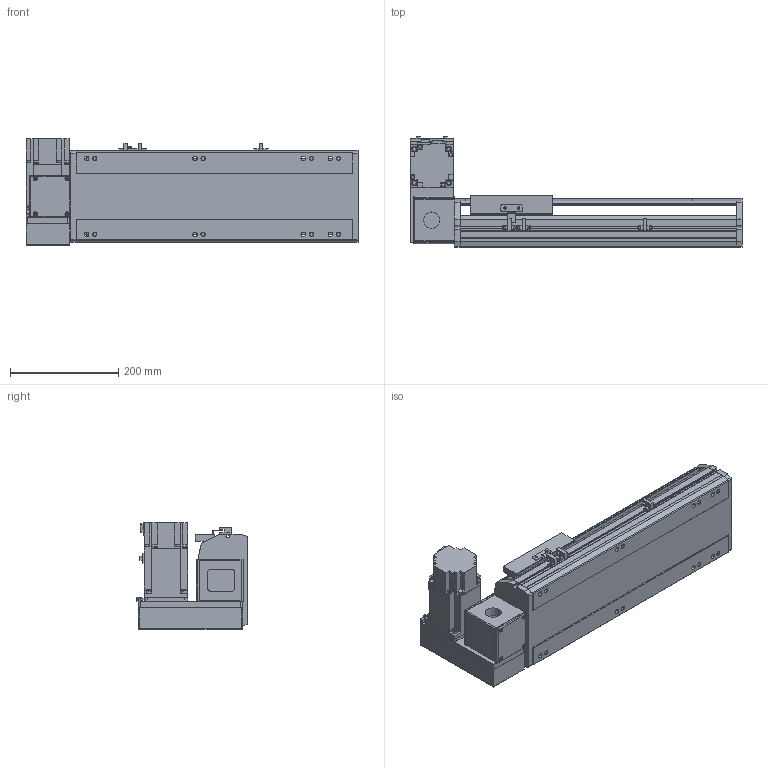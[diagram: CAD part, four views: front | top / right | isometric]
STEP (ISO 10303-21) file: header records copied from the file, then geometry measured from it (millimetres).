
FILE_DESCRIPTION( ( 'STEP AP214' ), '1' );
FILE_NAME( 'x:/temp/worker_4/temp/exporttempdir_2248_383_PNFBa/format_0/PBS170-P40-S250-LU-T75-C1-N(0).stp', '2022-06-07T08:14:00', ( 'License CC BY-ND 4.0' ), ( 'CADENAS' ), ' ', 'PARTsolutions', ' ' );
FILE_SCHEMA( ( 'AUTOMOTIVE_DESIGN { 1 0 10303 214 1 1 1 1 }' ) );
Length unit declared in the file: millimetre
Products named in the file (7): PBS170-P40-S250-LU-T75-C1-N(0); _PBS170-S250()_body; _PBS170T-LU_motors; _T75-p1; _PBS170_sliser; _PBS170_plant; _PBS170_sensor
Assembly tree (8 placements, depth 2):
  PBS170-P40-S250-LU-T75-C1-N(0)
    _PBS170-S250()_body
    _PBS170T-LU_motors
    _T75-p1
    _PBS170_sliser
    _PBS170_plant
    _PBS170_sensor  x3
Bounding box: 613 x 206 x 197.3 mm (x, y, z)
Volume: 5643707.8 mm3; surface area: 796494.5 mm2
Topology: 8 solids, 8 shells, 1018 faces, 2715 edges, 1770 vertices
Faces by surface type: plane 663, cylinder 307, cone 38, sphere 8, torus 2
Full cylindrical faces by diameter (mm): 3.242 x4, 4 x2, 4.4 x4, 4.5 x6, 4.917 x4, 6 x9, 6.647 x16, 7 x2, 7.5 x4, 8 x8, 8.5 x8, 10 x4, 10.5 x8, 11 x2, 30 x2, 40 x1, 70 x1
Entity records: 37172 total; most frequent: CARTESIAN_POINT 5549, DIRECTION 5020, ORIENTED_EDGE 4788, EDGE_CURVE 2394, AXIS2_PLACEMENT_3D 1717, VERTEX_POINT 1634, LINE 1586, VECTOR 1586
